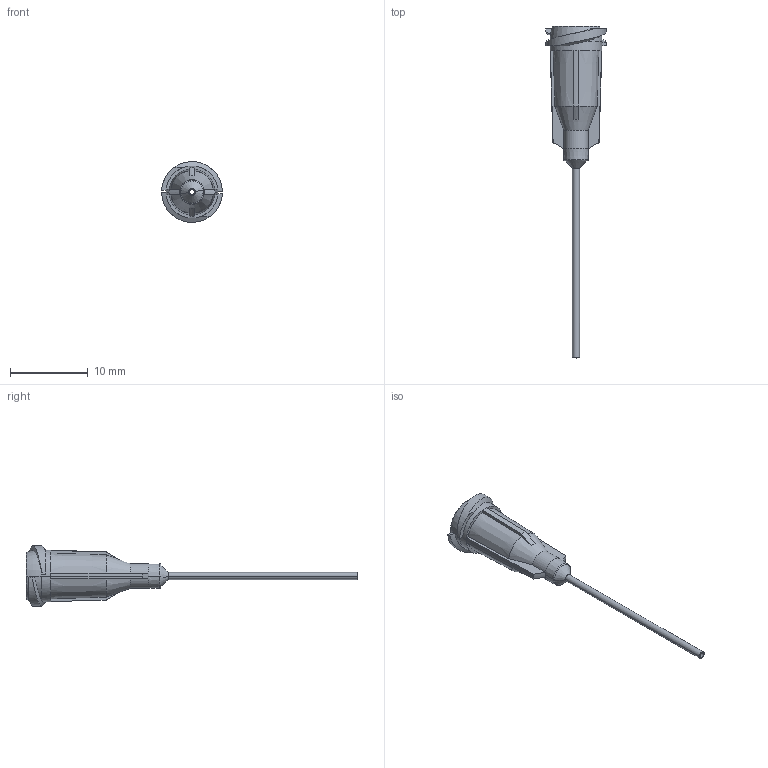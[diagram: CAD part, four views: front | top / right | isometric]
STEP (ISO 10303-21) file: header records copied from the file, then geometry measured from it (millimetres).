
FILE_DESCRIPTION (( 'STEP AP214' ), '1' );
FILE_NAME ('NORDSONEFD-7018165 TIP 20GA GP 023 X 10 PK.STEP', '2019-02-26T11:40:47', ( '' ), ( '' ), 'SwSTEP 2.0', 'SolidWorks 2019', '' );
FILE_SCHEMA (( 'AUTOMOTIVE_DESIGN' ));
Length unit declared in the file: inch
Products named in the file (1): NORDSONEFD-7018165 TIP 20GA GP 023 X 10 PK
Bounding box: 7.82 x 42.77 x 7.81 mm (x, y, z)
Volume: 271.8 mm3; surface area: 665.3 mm2
Topology: 1 solids, 1 shells, 98 faces, 232 edges, 140 vertices
Faces by surface type: plane 26, torus 22, cone 22, cylinder 16, bspline 12
Entity records: 3360 total; most frequent: CARTESIAN_POINT 1005, DIRECTION 468, ORIENTED_EDGE 464, EDGE_CURVE 232, AXIS2_PLACEMENT_3D 205, VERTEX_POINT 140, CIRCLE 118, EDGE_LOOP 104
